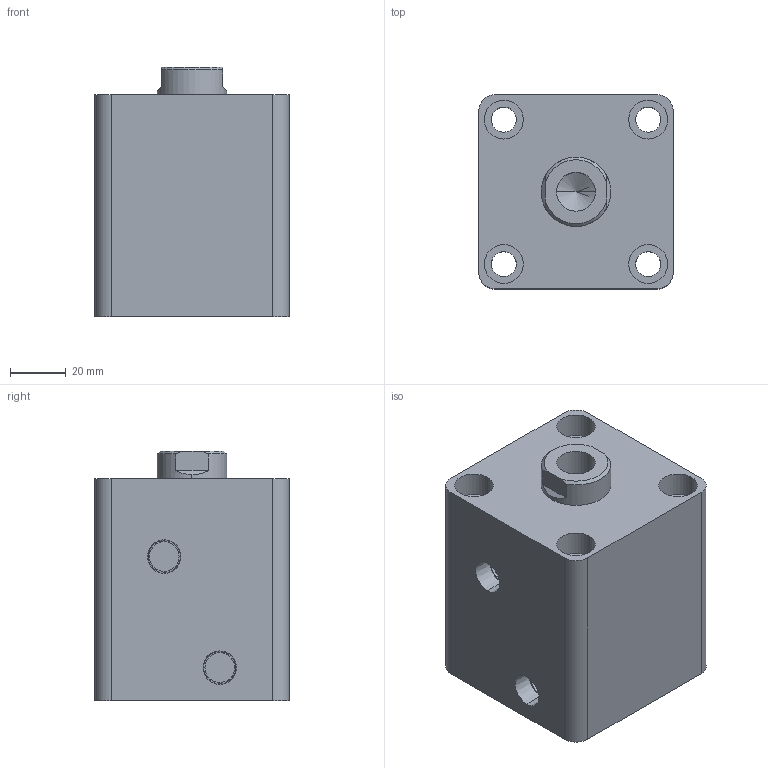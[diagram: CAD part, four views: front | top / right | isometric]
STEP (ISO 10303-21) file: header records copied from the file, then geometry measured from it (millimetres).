
FILE_DESCRIPTION (( 'STEP AP203' ), '1' );
FILE_NAME ('HTB-SD40-25N.STEP', '2019-10-07T06:49:24', ( '微软用户' ), ( '微软中国' ), 'SwSTEP 2.0', 'SolidWorks 2012', '' );
FILE_SCHEMA (( 'CONFIG_CONTROL_DESIGN' ));
Length unit declared in the file: millimetre
Products named in the file (3): HTB-SD40-25N; HTB-SD40-25掛极; HTB-SD40-25N活塞杆
Assembly tree (2 placements, depth 2):
  HTB-SD40-25N
    HTB-SD40-25掛极
    HTB-SD40-25N活塞杆
Bounding box: 70 x 70 x 90 mm (x, y, z)
Volume: 342980.8 mm3; surface area: 61155.3 mm2
Topology: 2 solids, 2 shells, 81 faces, 180 edges, 117 vertices
Faces by surface type: cylinder 42, plane 27, cone 8, torus 4
Entity records: 2603 total; most frequent: DIRECTION 444, CARTESIAN_POINT 409, ORIENTED_EDGE 356, AXIS2_PLACEMENT_3D 188, EDGE_CURVE 178, VERTEX_POINT 117, EDGE_LOOP 105, CIRCLE 102
